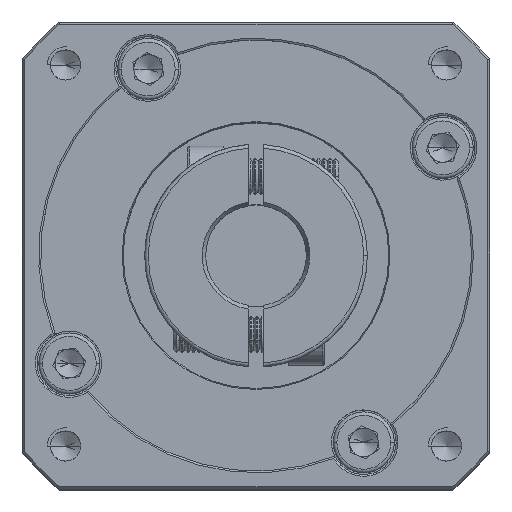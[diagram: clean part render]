
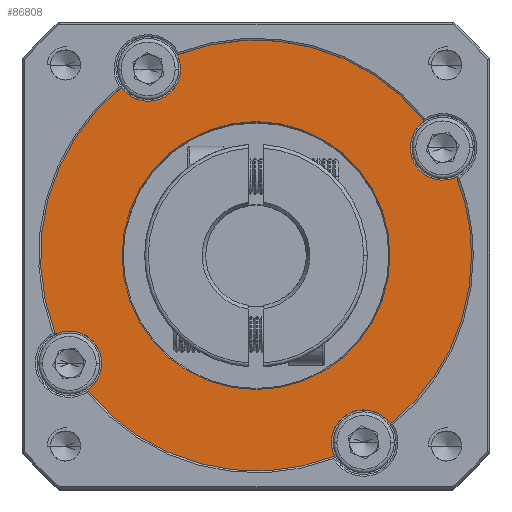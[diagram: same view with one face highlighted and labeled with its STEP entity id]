
A CAD part, top view. The second image highlights one B-rep face of the part: STEP entity #86808.
In plain terms, the highlighted planar face has unit normal (0, 0, 1).
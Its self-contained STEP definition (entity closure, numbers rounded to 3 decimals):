
#234 = DIRECTION ( 'NONE',  ( 1., 0., 0. ) ) ;
#1266 = EDGE_CURVE ( 'NONE', #79489, #19721, #29787, .T. ) ;
#1626 = CARTESIAN_POINT ( 'NONE',  ( -55.216, 41.266, -2.424 ) ) ;
#3437 = CARTESIAN_POINT ( 'NONE',  ( -51.499, 43.802, -2.424 ) ) ;
#3493 = VERTEX_POINT ( 'NONE', #1626 ) ;
#3695 = DIRECTION ( 'NONE',  ( 0., 0., 1. ) ) ;
#5882 = EDGE_CURVE ( 'NONE', #108469, #121265, #109090, .T. ) ;
#6678 = EDGE_LOOP ( 'NONE', ( #32738, #113252 ) ) ;
#7124 = VERTEX_POINT ( 'NONE', #35575 ) ;
#8606 = CARTESIAN_POINT ( 'NONE',  ( -21.499, -8.16, -2.424 ) ) ;
#10133 = CIRCLE ( 'NONE', #58214, 4.5 ) ;
#12082 = CARTESIAN_POINT ( 'NONE',  ( -8.567, 28.766, -2.424 ) ) ;
#14048 = EDGE_CURVE ( 'NONE', #121486, #46197, #57036, .T. ) ;
#14998 = EDGE_CURVE ( 'NONE', #35046, #121265, #115868, .T. ) ;
#15007 = DIRECTION ( 'NONE',  ( 1., 0., 0. ) ) ;
#17582 = DIRECTION ( 'NONE',  ( 1., 0., 0. ) ) ;
#17968 = AXIS2_PLACEMENT_3D ( 'NONE', #92277, #72673, #15007 ) ;
#18165 = DIRECTION ( 'NONE',  ( 0., 0., 1. ) ) ;
#19319 = CARTESIAN_POINT ( 'NONE',  ( -59.944, -0.896, -2.424 ) ) ;
#19721 = VERTEX_POINT ( 'NONE', #115180 ) ;
#23348 = CIRCLE ( 'NONE', #116461, 4.5 ) ;
#24842 = VERTEX_POINT ( 'NONE', #84143 ) ;
#27124 = CARTESIAN_POINT ( 'NONE',  ( -25.554, -10.111, -2.424 ) ) ;
#27399 = CIRCLE ( 'NONE', #106964, 4.5 ) ;
#29226 = AXIS2_PLACEMENT_3D ( 'NONE', #108736, #42157, #41744 ) ;
#29323 = AXIS2_PLACEMENT_3D ( 'NONE', #85687, #18165, #67308 ) ;
#29787 = CIRCLE ( 'NONE', #52869, 30. ) ;
#31646 = ORIENTED_EDGE ( 'NONE', *, *, #14998, .T. ) ;
#32738 = ORIENTED_EDGE ( 'NONE', *, *, #79300, .T. ) ;
#33272 = DIRECTION ( 'NONE',  ( 1., 0., 0. ) ) ;
#34996 = DIRECTION ( 'NONE',  ( 0., 0., 1. ) ) ;
#35046 = VERTEX_POINT ( 'NONE', #65608 ) ;
#35564 = ORIENTED_EDGE ( 'NONE', *, *, #1266, .T. ) ;
#35575 = CARTESIAN_POINT ( 'NONE',  ( -64.431, 6.876, -2.424 ) ) ;
#36128 = DIRECTION ( 'NONE',  ( 0., 0., 1. ) ) ;
#38733 = DIRECTION ( 'NONE',  ( 0., 0., 1. ) ) ;
#39648 = EDGE_CURVE ( 'NONE', #35046, #24842, #68952, .T. ) ;
#40250 = FACE_OUTER_BOUND ( 'NONE', #66377, .T. ) ;
#41744 = DIRECTION ( 'NONE',  ( 1., 0., 0. ) ) ;
#42157 = DIRECTION ( 'NONE',  ( 0., 0., -1. ) ) ;
#42389 = DIRECTION ( 'NONE',  ( 0., 0., 1. ) ) ;
#45058 = DIRECTION ( 'NONE',  ( 1., 0., 0. ) ) ;
#46197 = VERTEX_POINT ( 'NONE', #27124 ) ;
#47158 = DIRECTION ( 'NONE',  ( 1., 0., 0. ) ) ;
#48935 = ORIENTED_EDGE ( 'NONE', *, *, #14048, .T. ) ;
#49233 = ORIENTED_EDGE ( 'NONE', *, *, #69067, .F. ) ;
#50333 = CARTESIAN_POINT ( 'NONE',  ( -36.499, 17.821, -2.424 ) ) ;
#50939 = DIRECTION ( 'NONE',  ( 0., 0., 1. ) ) ;
#52750 = CARTESIAN_POINT ( 'NONE',  ( -55.143, 17.821, -2.424 ) ) ;
#52869 = AXIS2_PLACEMENT_3D ( 'NONE', #104391, #36128, #47158 ) ;
#53514 = DIRECTION ( 'NONE',  ( 0., 0., 1. ) ) ;
#55188 = VERTEX_POINT ( 'NONE', #73229 ) ;
#56052 = DIRECTION ( 'NONE',  ( 0., 0., 1. ) ) ;
#57036 = CIRCLE ( 'NONE', #17968, 30. ) ;
#57821 = ORIENTED_EDGE ( 'NONE', *, *, #83974, .F. ) ;
#57974 = DIRECTION ( 'NONE',  ( 0., 0., 1. ) ) ;
#58214 = AXIS2_PLACEMENT_3D ( 'NONE', #108997, #50939, #79872 ) ;
#58425 = EDGE_CURVE ( 'NONE', #24842, #85135, #10133, .T. ) ;
#60206 = CIRCLE ( 'NONE', #29226, 18.644 ) ;
#61233 = EDGE_CURVE ( 'NONE', #3493, #7124, #116123, .T. ) ;
#61591 = EDGE_CURVE ( 'NONE', #77355, #46197, #90436, .T. ) ;
#64668 = CARTESIAN_POINT ( 'NONE',  ( -10.518, 32.821, -2.424 ) ) ;
#65042 = DIRECTION ( 'NONE',  ( 1., 0., 0. ) ) ;
#65608 = CARTESIAN_POINT ( 'NONE',  ( -13.054, 36.539, -2.424 ) ) ;
#66377 = EDGE_LOOP ( 'NONE', ( #80327, #48935, #112628, #117892, #35564, #118726, #82056, #98748, #31646, #90225, #49233, #92914, #57821 ) ) ;
#66631 = CARTESIAN_POINT ( 'NONE',  ( -46.999, 43.802, -2.424 ) ) ;
#66879 = CARTESIAN_POINT ( 'NONE',  ( -25.999, -8.16, -2.424 ) ) ;
#66982 = EDGE_CURVE ( 'NONE', #79489, #77355, #79348, .T. ) ;
#67308 = DIRECTION ( 'NONE',  ( 1., 0., 0. ) ) ;
#67965 = DIRECTION ( 'NONE',  ( 1., 0., 0. ) ) ;
#68481 = CARTESIAN_POINT ( 'NONE',  ( -57.98, 2.821, -2.424 ) ) ;
#68952 = CIRCLE ( 'NONE', #94454, 4.5 ) ;
#69067 = EDGE_CURVE ( 'NONE', #3493, #108469, #23348, .T. ) ;
#72673 = DIRECTION ( 'NONE',  ( 0., 0., 1. ) ) ;
#72801 = DIRECTION ( 'NONE',  ( 1., 0., 0. ) ) ;
#73229 = CARTESIAN_POINT ( 'NONE',  ( -17.855, 17.821, -2.424 ) ) ;
#74715 = CARTESIAN_POINT ( 'NONE',  ( -62.48, 2.821, -2.424 ) ) ;
#75218 = FACE_BOUND ( 'NONE', #6678, .T. ) ;
#76323 = CIRCLE ( 'NONE', #110754, 4.5 ) ;
#76968 = CARTESIAN_POINT ( 'NONE',  ( -21.499, -8.16, -2.424 ) ) ;
#77316 = CARTESIAN_POINT ( 'NONE',  ( -36.499, 17.821, -2.424 ) ) ;
#77355 = VERTEX_POINT ( 'NONE', #66879 ) ;
#78780 = AXIS2_PLACEMENT_3D ( 'NONE', #104858, #56052, #65042 ) ;
#79300 = EDGE_CURVE ( 'NONE', #55188, #91700, #112768, .T. ) ;
#79348 = CIRCLE ( 'NONE', #99142, 4.5 ) ;
#79489 = VERTEX_POINT ( 'NONE', #120366 ) ;
#79872 = DIRECTION ( 'NONE',  ( 1., 0., 0. ) ) ;
#80327 = ORIENTED_EDGE ( 'NONE', *, *, #83419, .F. ) ;
#82056 = ORIENTED_EDGE ( 'NONE', *, *, #58425, .F. ) ;
#83419 = EDGE_CURVE ( 'NONE', #121486, #85079, #76323, .T. ) ;
#83974 = EDGE_CURVE ( 'NONE', #85079, #7124, #27399, .T. ) ;
#84143 = CARTESIAN_POINT ( 'NONE',  ( -15.018, 32.821, -2.424 ) ) ;
#84973 = AXIS2_PLACEMENT_3D ( 'NONE', #103138, #94788, #45058 ) ;
#85079 = VERTEX_POINT ( 'NONE', #68481 ) ;
#85135 = VERTEX_POINT ( 'NONE', #12082 ) ;
#85687 = CARTESIAN_POINT ( 'NONE',  ( -36.499, 17.821, -2.424 ) ) ;
#86808 = ADVANCED_FACE ( 'NONE', ( #75218, #40250 ), #95428, .T. ) ;
#87182 = DIRECTION ( 'NONE',  ( 0., 0., -1. ) ) ;
#89413 = EDGE_CURVE ( 'NONE', #19721, #85135, #108888, .T. ) ;
#90225 = ORIENTED_EDGE ( 'NONE', *, *, #5882, .F. ) ;
#90436 = CIRCLE ( 'NONE', #119414, 4.5 ) ;
#91536 = CARTESIAN_POINT ( 'NONE',  ( -62.48, 2.821, -2.424 ) ) ;
#91700 = VERTEX_POINT ( 'NONE', #52750 ) ;
#92277 = CARTESIAN_POINT ( 'NONE',  ( -36.499, 17.821, -2.424 ) ) ;
#92914 = ORIENTED_EDGE ( 'NONE', *, *, #61233, .T. ) ;
#92997 = DIRECTION ( 'NONE',  ( 0., 0., 1. ) ) ;
#94454 = AXIS2_PLACEMENT_3D ( 'NONE', #64668, #123913, #17582 ) ;
#94788 = DIRECTION ( 'NONE',  ( 0., 0., 1. ) ) ;
#95428 = PLANE ( 'NONE',  #29323 ) ;
#98429 = AXIS2_PLACEMENT_3D ( 'NONE', #50333, #57974, #98759 ) ;
#98748 = ORIENTED_EDGE ( 'NONE', *, *, #39648, .F. ) ;
#98759 = DIRECTION ( 'NONE',  ( 1., 0., 0. ) ) ;
#99142 = AXIS2_PLACEMENT_3D ( 'NONE', #8606, #92997, #104766 ) ;
#101600 = CARTESIAN_POINT ( 'NONE',  ( -47.444, 45.753, -2.424 ) ) ;
#103138 = CARTESIAN_POINT ( 'NONE',  ( -36.499, 17.821, -2.424 ) ) ;
#103281 = CARTESIAN_POINT ( 'NONE',  ( -36.499, 17.821, -2.424 ) ) ;
#104391 = CARTESIAN_POINT ( 'NONE',  ( -36.499, 17.821, -2.424 ) ) ;
#104766 = DIRECTION ( 'NONE',  ( 1., 0., 0. ) ) ;
#104858 = CARTESIAN_POINT ( 'NONE',  ( -51.499, 43.802, -2.424 ) ) ;
#106964 = AXIS2_PLACEMENT_3D ( 'NONE', #74715, #53514, #113200 ) ;
#107882 = AXIS2_PLACEMENT_3D ( 'NONE', #77316, #87182, #67965 ) ;
#108469 = VERTEX_POINT ( 'NONE', #66631 ) ;
#108736 = CARTESIAN_POINT ( 'NONE',  ( -36.499, 17.821, -2.424 ) ) ;
#108888 = CIRCLE ( 'NONE', #84973, 30. ) ;
#108997 = CARTESIAN_POINT ( 'NONE',  ( -10.518, 32.821, -2.424 ) ) ;
#109090 = CIRCLE ( 'NONE', #78780, 4.5 ) ;
#110187 = DIRECTION ( 'NONE',  ( 1., 0., 0. ) ) ;
#110754 = AXIS2_PLACEMENT_3D ( 'NONE', #91536, #3695, #33272 ) ;
#112628 = ORIENTED_EDGE ( 'NONE', *, *, #61591, .F. ) ;
#112768 = CIRCLE ( 'NONE', #107882, 18.644 ) ;
#113200 = DIRECTION ( 'NONE',  ( 1., 0., 0. ) ) ;
#113252 = ORIENTED_EDGE ( 'NONE', *, *, #122438, .T. ) ;
#115180 = CARTESIAN_POINT ( 'NONE',  ( -6.499, 17.821, -2.424 ) ) ;
#115868 = CIRCLE ( 'NONE', #121113, 30. ) ;
#116123 = CIRCLE ( 'NONE', #98429, 30. ) ;
#116461 = AXIS2_PLACEMENT_3D ( 'NONE', #3437, #42389, #110187 ) ;
#117892 = ORIENTED_EDGE ( 'NONE', *, *, #66982, .F. ) ;
#118726 = ORIENTED_EDGE ( 'NONE', *, *, #89413, .T. ) ;
#119414 = AXIS2_PLACEMENT_3D ( 'NONE', #76968, #38733, #234 ) ;
#120366 = CARTESIAN_POINT ( 'NONE',  ( -17.782, -5.624, -2.424 ) ) ;
#121113 = AXIS2_PLACEMENT_3D ( 'NONE', #103281, #34996, #72801 ) ;
#121265 = VERTEX_POINT ( 'NONE', #101600 ) ;
#121486 = VERTEX_POINT ( 'NONE', #19319 ) ;
#122438 = EDGE_CURVE ( 'NONE', #91700, #55188, #60206, .T. ) ;
#123913 = DIRECTION ( 'NONE',  ( 0., 0., 1. ) ) ;
